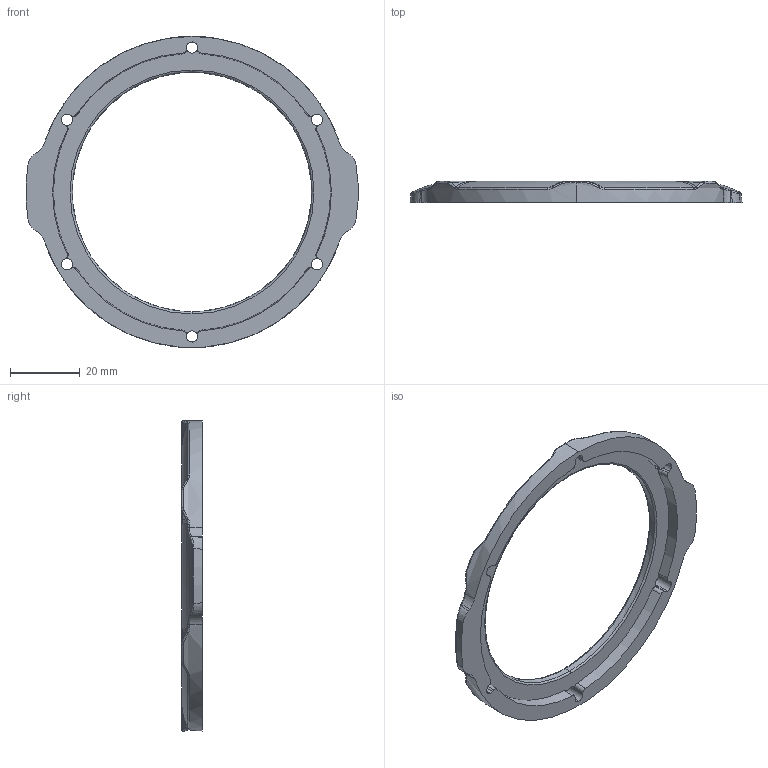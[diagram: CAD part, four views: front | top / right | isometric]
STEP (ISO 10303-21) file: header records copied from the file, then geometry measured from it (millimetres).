
FILE_DESCRIPTION (( 'STEP AP214' ), '1' );
FILE_NAME ('WTE3-P-RETAINING-RING-R1.STEP', '2018-10-16T22:51:46', ( '' ), ( '' ), 'SwSTEP 2.0', 'SolidWorks 2016', '' );
FILE_SCHEMA (( 'AUTOMOTIVE_DESIGN' ));
Length unit declared in the file: millimetre
Products named in the file (1): WTE3-P-RETAINING-RING-R1
Bounding box: 94.86 x 6 x 88.9 mm (x, y, z)
Volume: 9676.4 mm3; surface area: 7980 mm2
Topology: 1 solids, 1 shells, 240 faces, 616 edges, 372 vertices
Faces by surface type: bspline 112, torus 51, plane 36, cylinder 31, cone 10
Entity records: 9077 total; most frequent: CARTESIAN_POINT 3971, ORIENTED_EDGE 1232, DIRECTION 899, EDGE_CURVE 616, AXIS2_PLACEMENT_3D 406, VERTEX_POINT 372, CIRCLE 277, EDGE_LOOP 248
